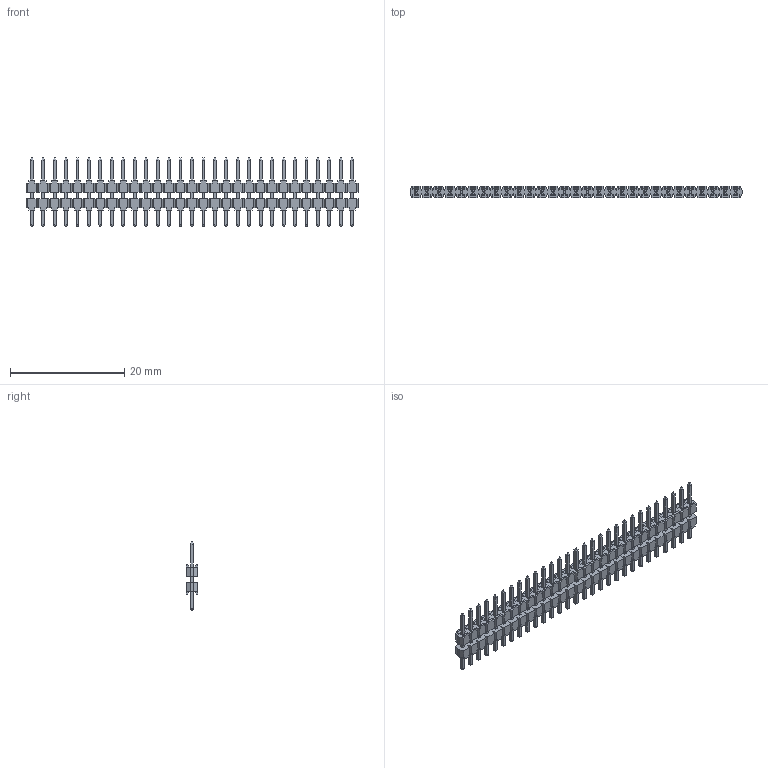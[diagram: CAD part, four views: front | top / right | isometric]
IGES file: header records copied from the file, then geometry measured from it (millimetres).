
Global section: file name: N:\GOLF_VI_2mm_UGII\9514XX_901XX06_AR\951429-9011106-AR.igs; native system: NX V3.0; preprocessor: UGS NX IGES V4.0; date: 20070314.114903; units: millimetre
Bounding box: 58 x 2 x 11.9 mm (x, y, z)
Surface area: 1563.6 mm2 (no closed solid volume)
Topology: 0 solids, 0 shells, 1458 faces, 7913 edges, 7913 vertices
Faces by surface type: bspline 1458
